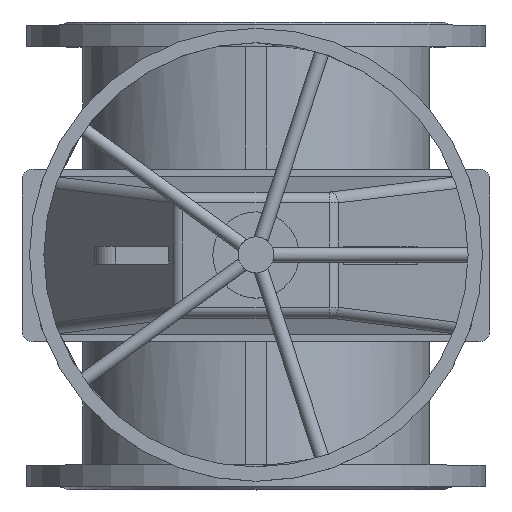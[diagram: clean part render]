
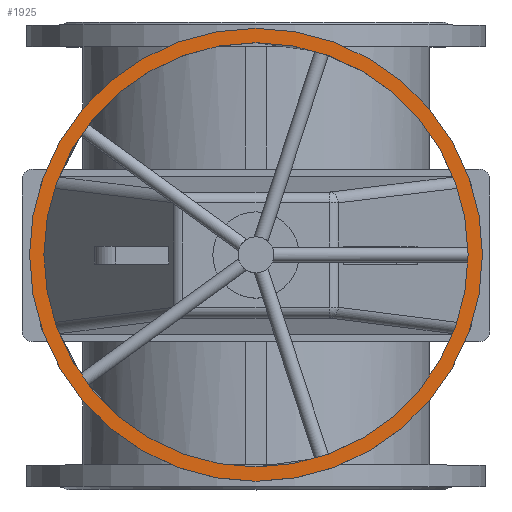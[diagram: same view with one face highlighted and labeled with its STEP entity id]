
A CAD part, top view. The second image highlights one B-rep face of the part: STEP entity #1925.
In plain terms, the highlighted planar face has unit normal (0, 0, 1).
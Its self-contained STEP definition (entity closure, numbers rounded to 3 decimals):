
#1925=ADVANCED_FACE('',(#4552,#4554),#4556,.T.);
#4552=FACE_BOUND('',#4553,.T.);
#4553=EDGE_LOOP('',(#5529));
#4554=FACE_BOUND('',#4555,.T.);
#4555=EDGE_LOOP('',(#5530));
#4556=PLANE('',#4557);
#4557=AXIS2_PLACEMENT_3D('',#4558,#4559,#4560);
#4558=CARTESIAN_POINT('',(0.,0.,946.5));
#4559=DIRECTION('',(0.,0.,1.));
#4560=DIRECTION('',(0.,-1.,0.));
#5529=ORIENTED_EDGE('',*,*,#6011,.T.);
#5530=ORIENTED_EDGE('',*,*,#6009,.T.);
#6009=EDGE_CURVE('',#6823,#6823,#6824,.F.);
#6011=EDGE_CURVE('',#6827,#6827,#6828,.T.);
#6823=VERTEX_POINT('',#10361);
#6824=CIRCLE('',#10362,295.);
#6827=VERTEX_POINT('',#10371);
#6828=CIRCLE('',#10372,315.);
#10361=CARTESIAN_POINT('',(0.,-295.,946.5));
#10362=AXIS2_PLACEMENT_3D('',#10363,#10364,#10365);
#10363=CARTESIAN_POINT('',(0.,0.,946.5));
#10364=DIRECTION('',(0.,0.,1.));
#10365=DIRECTION('',(0.,-1.,0.));
#10371=CARTESIAN_POINT('',(0.,-315.,946.5));
#10372=AXIS2_PLACEMENT_3D('',#10373,#10374,#10375);
#10373=CARTESIAN_POINT('',(0.,0.,946.5));
#10374=DIRECTION('',(0.,0.,1.));
#10375=DIRECTION('',(0.,-1.,0.));
